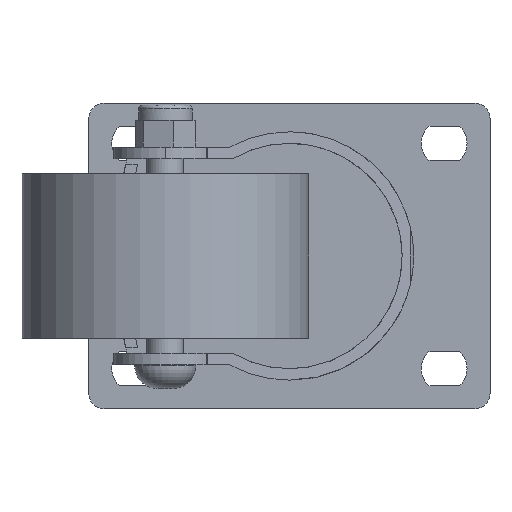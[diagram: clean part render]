
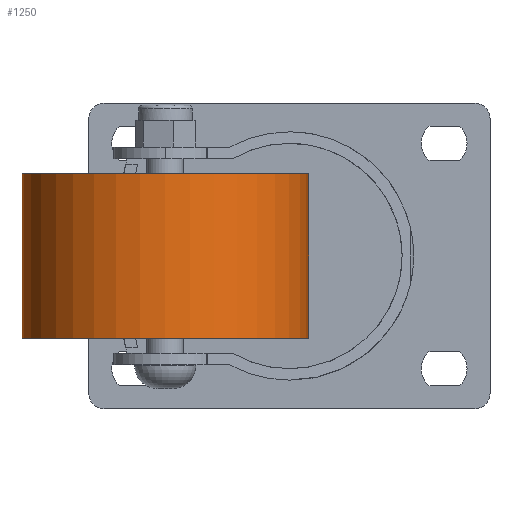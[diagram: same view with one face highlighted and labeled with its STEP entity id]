
A CAD part, front view. The second image highlights one B-rep face of the part: STEP entity #1250.
In plain terms, the highlighted cylindrical face has radius 37.5 mm (diameter 75 mm), a partial arc.
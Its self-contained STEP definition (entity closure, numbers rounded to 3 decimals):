
#106 = DIRECTION ( 'NONE',  ( -1., 0., 0. ) ) ;
#172 = VERTEX_POINT ( 'NONE', #1609 ) ;
#191 = DIRECTION ( 'NONE',  ( 0., 0., -1. ) ) ;
#242 = CARTESIAN_POINT ( 'NONE',  ( 277.507, 116.026, -61.5 ) ) ;
#367 = LINE ( 'NONE', #2618, #3536 ) ;
#392 = EDGE_CURVE ( 'NONE', #2305, #1166, #367, .T. ) ;
#484 = FACE_OUTER_BOUND ( 'NONE', #2167, .T. ) ;
#519 = CIRCLE ( 'NONE', #2849, 37.5 ) ;
#783 = CARTESIAN_POINT ( 'NONE',  ( 202.507, 116.026, -0.5 ) ) ;
#856 = CARTESIAN_POINT ( 'NONE',  ( 277.507, 116.026, -18.5 ) ) ;
#1166 = VERTEX_POINT ( 'NONE', #242 ) ;
#1201 = CYLINDRICAL_SURFACE ( 'NONE', #2496, 37.5 ) ;
#1250 = ADVANCED_FACE ( 'NONE', ( #484 ), #1201, .T. ) ;
#1292 = DIRECTION ( 'NONE',  ( 0., 0., -1. ) ) ;
#1371 = DIRECTION ( 'NONE',  ( 0., 0., -1. ) ) ;
#1515 = ORIENTED_EDGE ( 'NONE', *, *, #392, .F. ) ;
#1518 = DIRECTION ( 'NONE',  ( 0., 0., -1. ) ) ;
#1609 = CARTESIAN_POINT ( 'NONE',  ( 202.507, 116.026, -18.5 ) ) ;
#1635 = ORIENTED_EDGE ( 'NONE', *, *, #1963, .F. ) ;
#1663 = CIRCLE ( 'NONE', #3020, 37.5 ) ;
#1911 = VECTOR ( 'NONE', #1371, 1000. ) ;
#1916 = DIRECTION ( 'NONE',  ( 0., 0., -1. ) ) ;
#1926 = CARTESIAN_POINT ( 'NONE',  ( 240.007, 116.026, -0.5 ) ) ;
#1963 = EDGE_CURVE ( 'NONE', #1166, #2228, #519, .T. ) ;
#2167 = EDGE_LOOP ( 'NONE', ( #1515, #3285, #3618, #1635 ) ) ;
#2228 = VERTEX_POINT ( 'NONE', #2315 ) ;
#2305 = VERTEX_POINT ( 'NONE', #856 ) ;
#2315 = CARTESIAN_POINT ( 'NONE',  ( 202.507, 116.026, -61.5 ) ) ;
#2496 = AXIS2_PLACEMENT_3D ( 'NONE', #1926, #1916, #106 ) ;
#2618 = CARTESIAN_POINT ( 'NONE',  ( 277.507, 116.026, -0.5 ) ) ;
#2849 = AXIS2_PLACEMENT_3D ( 'NONE', #3070, #1292, #3367 ) ;
#3020 = AXIS2_PLACEMENT_3D ( 'NONE', #3283, #1518, #3595 ) ;
#3070 = CARTESIAN_POINT ( 'NONE',  ( 240.007, 116.026, -61.5 ) ) ;
#3283 = CARTESIAN_POINT ( 'NONE',  ( 240.007, 116.026, -18.5 ) ) ;
#3285 = ORIENTED_EDGE ( 'NONE', *, *, #3863, .T. ) ;
#3367 = DIRECTION ( 'NONE',  ( -1., 0., 0. ) ) ;
#3453 = EDGE_CURVE ( 'NONE', #172, #2228, #3460, .T. ) ;
#3460 = LINE ( 'NONE', #783, #1911 ) ;
#3536 = VECTOR ( 'NONE', #191, 1000. ) ;
#3595 = DIRECTION ( 'NONE',  ( -1., 0., 0. ) ) ;
#3618 = ORIENTED_EDGE ( 'NONE', *, *, #3453, .T. ) ;
#3863 = EDGE_CURVE ( 'NONE', #2305, #172, #1663, .T. ) ;
